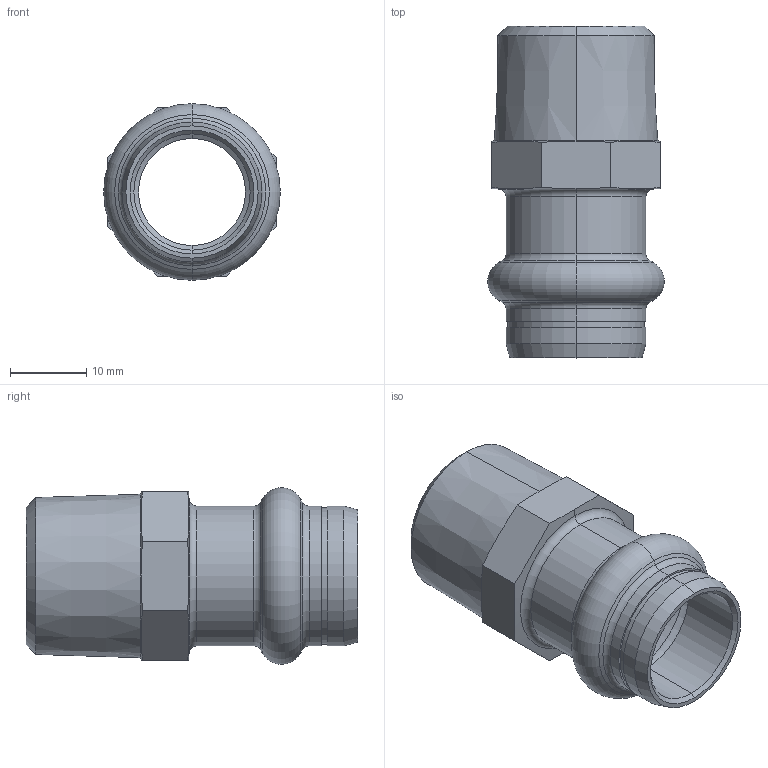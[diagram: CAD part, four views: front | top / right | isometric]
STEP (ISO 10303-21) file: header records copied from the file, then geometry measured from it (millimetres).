
FILE_DESCRIPTION (( 'STEP AP203' ), '1' );
FILE_NAME ('SP4243G Ø15 1-2.STEP', '2017-04-26T07:42:01', ( '' ), ( '' ), 'SwSTEP 2.0', 'SolidWorks 2016', '' );
FILE_SCHEMA (( 'CONFIG_CONTROL_DESIGN' ));
Length unit declared in the file: millimetre
Products named in the file (1): SP4243G Ø15 1-2
Bounding box: 23.1 x 43.4 x 23.1 mm (x, y, z)
Volume: 5721.6 mm3; surface area: 5524.7 mm2
Topology: 1 solids, 1 shells, 63 faces, 136 edges, 78 vertices
Faces by surface type: cone 24, cylinder 16, plane 13, torus 10
Entity records: 1811 total; most frequent: CARTESIAN_POINT 354, DIRECTION 312, ORIENTED_EDGE 272, EDGE_CURVE 136, AXIS2_PLACEMENT_3D 132, VERTEX_POINT 78, EDGE_LOOP 68, CIRCLE 68
